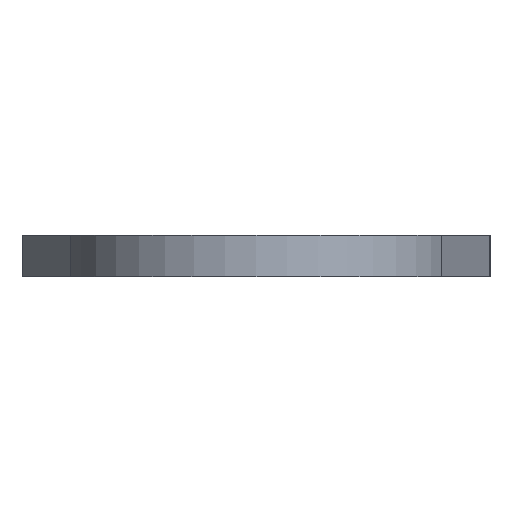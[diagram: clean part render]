
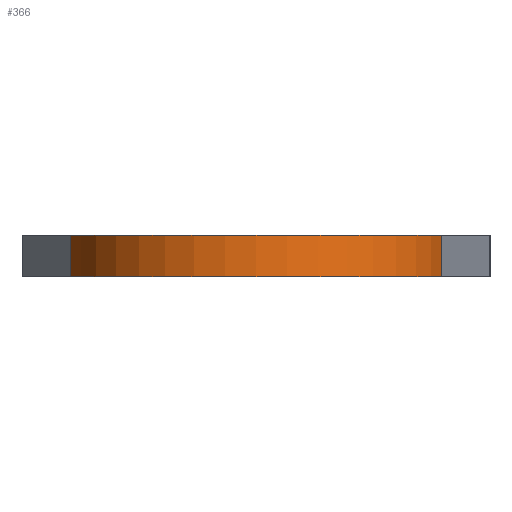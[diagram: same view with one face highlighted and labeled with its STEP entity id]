
A CAD part, left-side view. The second image highlights one B-rep face of the part: STEP entity #366.
In plain terms, the highlighted cylindrical face has radius 10.415 mm (diameter 20.831 mm), a partial arc.
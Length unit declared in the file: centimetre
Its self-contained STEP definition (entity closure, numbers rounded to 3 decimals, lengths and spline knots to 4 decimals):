
#34=CYLINDRICAL_SURFACE('',#392,1.0416);
#46=CIRCLE('',#389,1.0416);
#48=CIRCLE('',#393,1.0416);
#55=VERTEX_POINT('',#507);
#57=VERTEX_POINT('',#510);
#68=VERTEX_POINT('',#534);
#75=VERTEX_POINT('',#549);
#90=VECTOR('',#417,1.);
#104=VECTOR('',#447,1.);
#126=LINE('',#509,#90);
#140=LINE('',#551,#104);
#162=EDGE_CURVE('',#57,#55,#126,.T.);
#174=EDGE_CURVE('',#57,#68,#46,.T.);
#183=EDGE_CURVE('',#68,#75,#140,.T.);
#184=EDGE_CURVE('',#75,#55,#48,.T.);
#236=ORIENTED_EDGE('',*,*,#184,.F.);
#237=ORIENTED_EDGE('',*,*,#183,.F.);
#238=ORIENTED_EDGE('',*,*,#174,.F.);
#239=ORIENTED_EDGE('',*,*,#162,.T.);
#317=EDGE_LOOP('',(#236,#237,#238,#239));
#343=FACE_BOUND('',#317,.T.);
#366=ADVANCED_FACE('',(#343),#34,.T.);
#389=AXIS2_PLACEMENT_3D('',#533,#435,#436);
#392=AXIS2_PLACEMENT_3D('',#552,#448,#449);
#393=AXIS2_PLACEMENT_3D('',#553,#450,#451);
#417=DIRECTION('',(0.,0.,1.));
#435=DIRECTION('',(0.,0.,-1.));
#436=DIRECTION('',(-1.042,0.,0.));
#447=DIRECTION('',(0.,0.,1.));
#448=DIRECTION('',(0.,0.,1.));
#449=DIRECTION('',(-1.042,0.,0.));
#450=DIRECTION('',(0.,0.,1.));
#451=DIRECTION('',(-1.042,0.,0.));
#507=CARTESIAN_POINT('',(-55.4672,-1.0075,0.2261));
#509=CARTESIAN_POINT('',(-55.4672,-1.0075,0.));
#510=CARTESIAN_POINT('',(-55.4672,-1.0075,0.));
#533=CARTESIAN_POINT('',(-55.2029,0.,0.));
#534=CARTESIAN_POINT('',(-55.4672,1.0075,0.));
#549=CARTESIAN_POINT('',(-55.4672,1.0075,0.2261));
#551=CARTESIAN_POINT('',(-55.4672,1.0075,0.));
#552=CARTESIAN_POINT('',(-55.2029,0.,0.));
#553=CARTESIAN_POINT('',(-55.2029,0.,0.2261));
